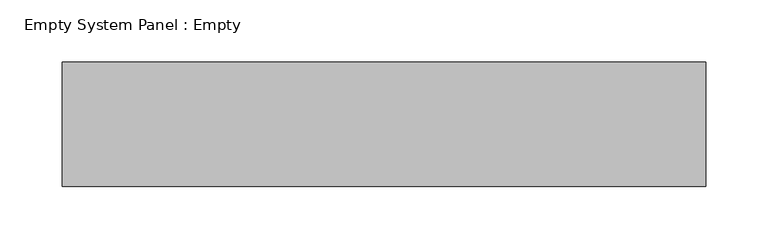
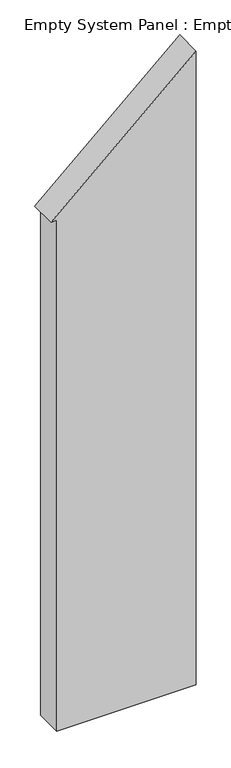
"""IFC4 building model written with IfcOpenShell, lengths in millimetres: plate geometry, Empty System Panel : Empty."""

import ifcopenshell
import ifcopenshell.guid

model = None  # the IFC model being written
_history = None  # IfcOwnerHistory: only IFC2X3 demands one
_inside = {}  # id of a spatial element -> (the spatial element, [elements in it])
_under = {}  # id of a project, library or spatial element -> (it, [spatial elements below it])
_declared = {}  # id of a project -> (the project, [libraries it declares])
_typed = {}  # id of a type object -> (the type object, [elements of that type])
_made_of = {}  # id of a material, layer set ... -> (it, [elements and type objects made of it])


def new_model(schema):
    """Start an empty IFC model of exactly this schema.

    Asked for "IFC4X3", IfcOpenShell would pick the latest addendum, in which some entities
    have other attributes; the version numbers below select the first issue.
    IFC2X3 requires an IfcOwnerHistory on every rooted entity: one is made here for all.
    """
    global model, _history
    if schema == "IFC4X3":
        model = ifcopenshell.file(schema_version=(4, 3, 0, 0))
    else:
        model = ifcopenshell.file(schema=schema)
    _inside.clear()
    _under.clear()
    _declared.clear()
    _typed.clear()
    _made_of.clear()
    _history = None
    if model.schema == "IFC2X3":
        org = make("IfcOrganization", Name="unknown")
        user = make(
            "IfcPersonAndOrganization",
            ThePerson=make("IfcPerson", FamilyName="unknown"),
            TheOrganization=org,
        )
        app = make(
            "IfcApplication",
            ApplicationDeveloper=org,
            Version="unknown",
            ApplicationFullName="unknown",
            ApplicationIdentifier="unknown",
        )
        _history = make(
            "IfcOwnerHistory",
            OwningUser=user,
            OwningApplication=app,
            ChangeAction="ADDED",
            CreationDate=0,
        )
    return model


def make(cls, **values):
    """One entity of the class cls with the attributes given. An attribute that is None is left unset."""
    return model.create_entity(
        cls, **{name: value for name, value in values.items() if value is not None}
    )


def rooted(cls, **values):
    """An entity with a GlobalId (a new one), such as an element, a storey or a relation."""
    return make(cls, GlobalId=ifcopenshell.guid.new(), OwnerHistory=_history, **values)


def si_unit(unit_type, name, prefix=None):
    """IfcSIUnit, for example si_unit("LENGTHUNIT", "METRE", prefix="MILLI")."""
    return make("IfcSIUnit", UnitType=unit_type, Prefix=prefix, Name=name)


def assignment(units):
    """IfcUnitAssignment: the units of a project."""
    return None if units is None else make("IfcUnitAssignment", Units=units)


def point(xyz):
    """IfcCartesianPoint."""
    return None if xyz is None else make("IfcCartesianPoint", Coordinates=xyz)


def direction(xyz):
    """IfcDirection."""
    return None if xyz is None else make("IfcDirection", DirectionRatios=xyz)


def frame(location, z_axis=None, x_axis=None):
    """IfcAxis2Placement3D, a coordinate frame: its origin and axes. An axis left out is left unset."""
    return make(
        "IfcAxis2Placement3D",
        Location=point(location),
        Axis=direction(z_axis),
        RefDirection=direction(x_axis),
    )


def origin():
    """The frame at (0, 0, 0) with its axes left unset."""
    return frame((0.0, 0.0, 0.0))


def place(relative_to, where):
    """IfcLocalPlacement: puts the frame where relative to a parent placement (None: the world)."""
    return make(
        "IfcLocalPlacement", PlacementRelTo=relative_to, RelativePlacement=where
    )


def context(
    kind, dimensions, precision=None, world=None, true_north=None, identifier=None
):
    """IfcGeometricRepresentationContext, for example the 3D "Model" context."""
    return make(
        "IfcGeometricRepresentationContext",
        ContextIdentifier=identifier,
        ContextType=kind,
        CoordinateSpaceDimension=dimensions,
        Precision=precision,
        WorldCoordinateSystem=world,
        TrueNorth=true_north,
    )


def project(units=None, contexts=None):
    """IfcProject with its units and contexts."""
    return rooted(
        "IfcProject",
        Name="project",
        RepresentationContexts=contexts,
        UnitsInContext=assignment(units),
    )


def spatial(cls, under=None, at=None, **own):
    """A site, building, storey or space (cls), placed at a placement, below another one or the project."""
    s = rooted(cls, ObjectPlacement=at, **own)
    if under is not None:
        _under.setdefault(under.id(), (under, []))[1].append(s)
    return s


def polyline(points):
    """IfcPolyline through the points."""
    return make("IfcPolyline", Points=[point(p) for p in points])


def outline(outer, holes=None, kind="AREA"):
    """IfcArbitraryClosedProfileDef: a profile drawn as a closed curve; with holes, ...WithVoids."""
    if holes is None:
        return make("IfcArbitraryClosedProfileDef", ProfileType=kind, OuterCurve=outer)
    return make(
        "IfcArbitraryProfileDefWithVoids",
        ProfileType=kind,
        OuterCurve=outer,
        InnerCurves=holes,
    )


def extrude(swept, where, along, depth):
    """IfcExtrudedAreaSolid: the profile swept, set in the frame where, extruded along a direction by depth."""
    return make(
        "IfcExtrudedAreaSolid",
        SweptArea=swept,
        Position=where,
        ExtrudedDirection=direction(along),
        Depth=depth,
    )


def shape(context_of_items, identifier, shape_type, items):
    """IfcShapeRepresentation: the items that make up one representation, for example the "Body"."""
    return make(
        "IfcShapeRepresentation",
        ContextOfItems=context_of_items,
        RepresentationIdentifier=identifier,
        RepresentationType=shape_type,
        Items=items,
    )


def source(mapping_origin, context_of_items, identifier, shape_type, items):
    """IfcRepresentationMap: a shape defined once, which mapped items show again and again."""
    return make(
        "IfcRepresentationMap",
        MappingOrigin=mapping_origin,
        MappedRepresentation=shape(context_of_items, identifier, shape_type, items),
    )


def transform(
    local_origin,
    x_axis=None,
    y_axis=None,
    z_axis=None,
    scale=None,
    scale2=None,
    scale3=None,
    uniform=True,
):
    """IfcCartesianTransformationOperator3D, or its non-uniform kind. x_axis, y_axis, z_axis: its Axis1, 2, 3."""
    if uniform:
        return make(
            "IfcCartesianTransformationOperator3D",
            Axis1=direction(x_axis),
            Axis2=direction(y_axis),
            LocalOrigin=point(local_origin),
            Scale=scale,
            Axis3=direction(z_axis),
        )
    return make(
        "IfcCartesianTransformationOperator3DnonUniform",
        Axis1=direction(x_axis),
        Axis2=direction(y_axis),
        LocalOrigin=point(local_origin),
        Scale=scale,
        Axis3=direction(z_axis),
        Scale2=scale2,
        Scale3=scale3,
    )


def mapped(mapping_source, mapping_target):
    """IfcMappedItem: shows the shape of a source again, moved by a transform."""
    return make(
        "IfcMappedItem", MappingSource=mapping_source, MappingTarget=mapping_target
    )


def made_of(thing, what):
    """Note that an element or type object is made of a material, layer set ...; save() writes the relation."""
    if what is not None:
        _made_of.setdefault(what.id(), (what, []))[1].append(thing)
    return thing


def element(
    cls,
    number,
    at=None,
    inside=None,
    cuts=None,
    type_object=None,
    material=None,
    context=None,
    identifier="Body",
    shape_type=None,
    held_by="IfcProductDefinitionShape",
    body=None,
    shapes=None,
    **own,
):
    """One element of the class cls, such as IfcWall. Its Tag is "e" and its number.

    at: its placement. inside: the storey or other place that contains it. cuts: it is an
    opening in that element (IfcRelVoidsElement). A single representation is given by context,
    identifier, shape_type and body (its items); several are given by shapes. held_by: the class
    of the entity that holds the representations. save() writes the other relations.
    """
    e = rooted(cls, Tag="e%d" % number, ObjectPlacement=at, **own)
    if body is not None:
        shapes = [shape(context, identifier, shape_type, body)]
    if shapes is not None:
        e.Representation = make(held_by, Representations=shapes)
    if inside is not None:
        _inside.setdefault(inside.id(), (inside, []))[1].append(e)
    if cuts is not None:
        rooted(
            "IfcRelVoidsElement", RelatingBuildingElement=cuts, RelatedOpeningElement=e
        )
    if type_object is not None:
        _typed.setdefault(type_object.id(), (type_object, []))[1].append(e)
    return made_of(e, material)


def aggregate(whole, parts):
    """IfcRelAggregates: a whole, such as a stair, and the parts it consists of."""
    return rooted("IfcRelAggregates", RelatingObject=whole, RelatedObjects=parts)


def save(model, path):
    """Write the relations noted so far, then the file.

    IfcRelAggregates (storeys below a building ...), IfcRelContainedInSpatialStructure (elements
    in a storey), IfcRelDefinesByType, IfcRelAssociatesMaterial and IfcRelDeclares: one each for
    every whole, place, type object, material and project.
    """
    for whole, parts in _under.values():
        aggregate(whole, parts)
    for where, things in _inside.values():
        rooted(
            "IfcRelContainedInSpatialStructure",
            RelatedElements=things,
            RelatingStructure=where,
        )
    for kind, things in _typed.values():
        rooted("IfcRelDefinesByType", RelatedObjects=things, RelatingType=kind)
    for what, things in _made_of.values():
        rooted("IfcRelAssociatesMaterial", RelatedObjects=things, RelatingMaterial=what)
    for by, libraries in _declared.values():
        rooted("IfcRelDeclares", RelatingContext=by, RelatedDefinitions=libraries)
    model.write(path)


def empty_system_panel_empty_866aba27(model_context):
    return source(origin(), model_context, "Body", "SweptSolid", [
        extrude(outline(polyline([(0.0, -238.7446429), (0.0, 258.7446429), (2386.0737739, 258.7446429), (1923.1712767, -258.7446429), (1923.1712767, -238.7446429), (0.0, -238.7446429)])), frame((0.0, -50.0, 0.0), z_axis=(0.0, 1.0, 0.0), x_axis=(0.0, 0.0, 1.0)), (0.0, 0.0, 1.0), 100.0),
    ])


if __name__ == "__main__":
    model = new_model("IFC4")
    model_context = context("Model", 3, world=origin())
    ifc_project = project(units=[si_unit("LENGTHUNIT", "METRE", prefix="MILLI")], contexts=[model_context])
    site = spatial("IfcSite", under=ifc_project)
    building = spatial("IfcBuilding", under=site)
    placement = place(None, origin())
    empty_system_panel_empty_shape = empty_system_panel_empty_866aba27(model_context)
    element("IfcPlate", 1, ObjectType="Empty System Panel : Empty", at=placement, inside=building, context=model_context, shape_type="MappedRepresentation", body=[
        mapped(empty_system_panel_empty_shape, transform((0.0, 0.0, 0.0), x_axis=(1.0, 0.0, 0.0), y_axis=(0.0, 1.0, 0.0), z_axis=(0.0, 0.0, 1.0))),
    ])
    save(model, "model.ifc")
